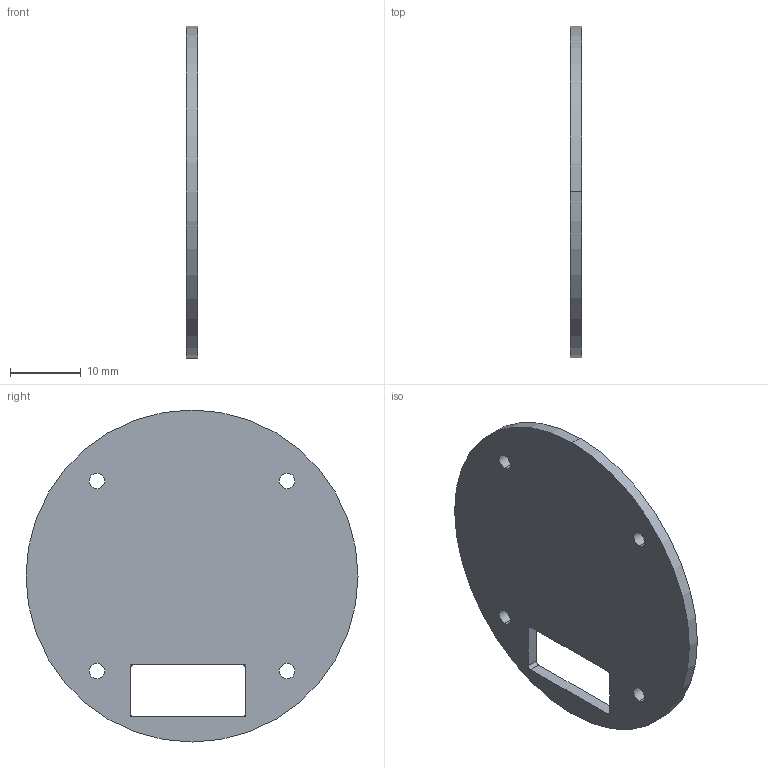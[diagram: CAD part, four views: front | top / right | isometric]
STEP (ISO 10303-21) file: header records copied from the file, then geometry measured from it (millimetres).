
FILE_DESCRIPTION(/* description */ ('(C) Elphel, Inc. 2012. Licensed under CERN OHL v.1.1 or later, see http://ohwr.org/cernohl'),/* implementation_level */ '2;1');
FILE_NAME(/* name */ '0353-19-100',/* time_stamp */ '2012-02-04T23:33:57-07:00',/* author */ (''),/* organization */ ('Elphel, Inc'),/* preprocessor_version */ 'ST-DEVELOPER v12',/* originating_system */ 'VariCAD 2010-3.03; kernel version (20100102)',/* authorisation */ '');
FILE_SCHEMA (('AUTOMOTIVE_DESIGN'));
Length unit declared in the file: millimetre
Products named in the file (1): Part
Bounding box: 1.6 x 46.8 x 46.8 mm (x, y, z)
Volume: 2537.4 mm3; surface area: 3525.3 mm2
Topology: 1 solids, 1 shells, 28 faces, 70 edges, 44 vertices
Faces by surface type: cylinder 14, plane 14
Entity records: 885 total; most frequent: DIRECTION 158, CARTESIAN_POINT 144, ORIENTED_EDGE 140, EDGE_CURVE 70, AXIS2_PLACEMENT_3D 58, VERTEX_POINT 44, LINE 42, VECTOR 42
